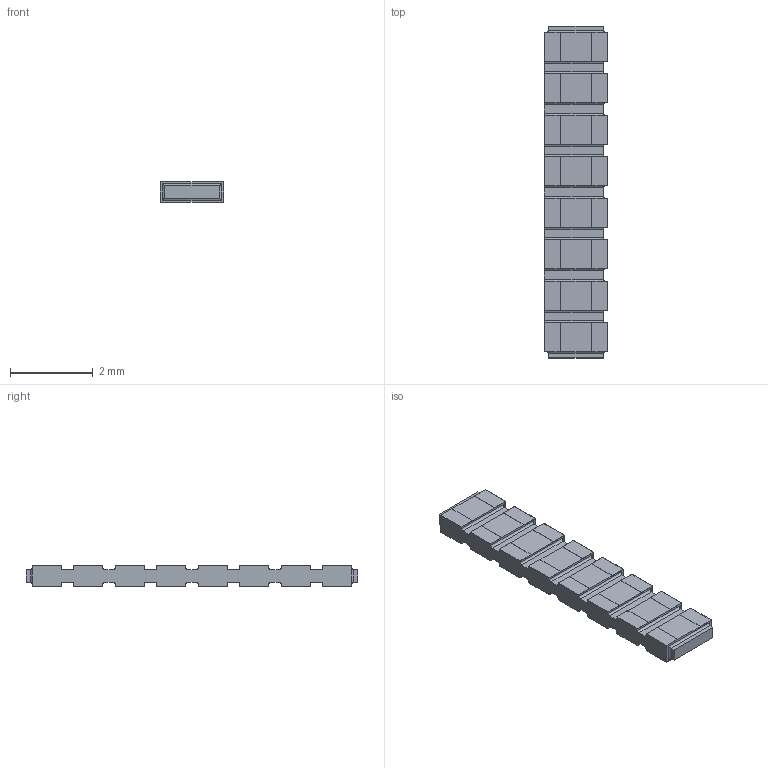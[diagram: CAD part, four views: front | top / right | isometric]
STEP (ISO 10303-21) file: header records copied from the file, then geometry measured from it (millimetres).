
FILE_DESCRIPTION(/* description */ (''),/* implementation_level */ '2;1');
FILE_NAME(/* name */ 'S:\DOCUMENT\AUTOCAD\3D_Modèles\10_3D-pour-VISHAY-COM\PRA\PRA100\PRA100-C2_à_C8\20_STEP\PRA100C8_B-or-N-or-G.stp',/* time_stamp */ '2017-12-18T09:22:32+01:00',/* author */ ('dparmentier'),/* organization */ ('unknown'),/* preprocessor_version */ 'ST-DEVELOPER v17',/* originating_system */ 'Autodesk Inventor 2018',/* authorisation */ '');
FILE_SCHEMA (('AUTOMOTIVE_DESIGN { 1 0 10303 214 3 1 1 }'));
Length unit declared in the file: millimetre
Products named in the file (1): PRA100C8_B-or-N-or-G
Bounding box: 1.52 x 8 x 0.5 mm (x, y, z)
Volume: 5.3 mm3; surface area: 65 mm2
Topology: 10 solids, 10 shells, 324 faces, 870 edges, 568 vertices
Faces by surface type: plane 246, cylinder 78
Entity records: 10030 total; most frequent: CARTESIAN_POINT 1763, ORIENTED_EDGE 1740, DIRECTION 1640, EDGE_CURVE 870, LINE 750, VECTOR 750, VERTEX_POINT 568, AXIS2_PLACEMENT_3D 445
